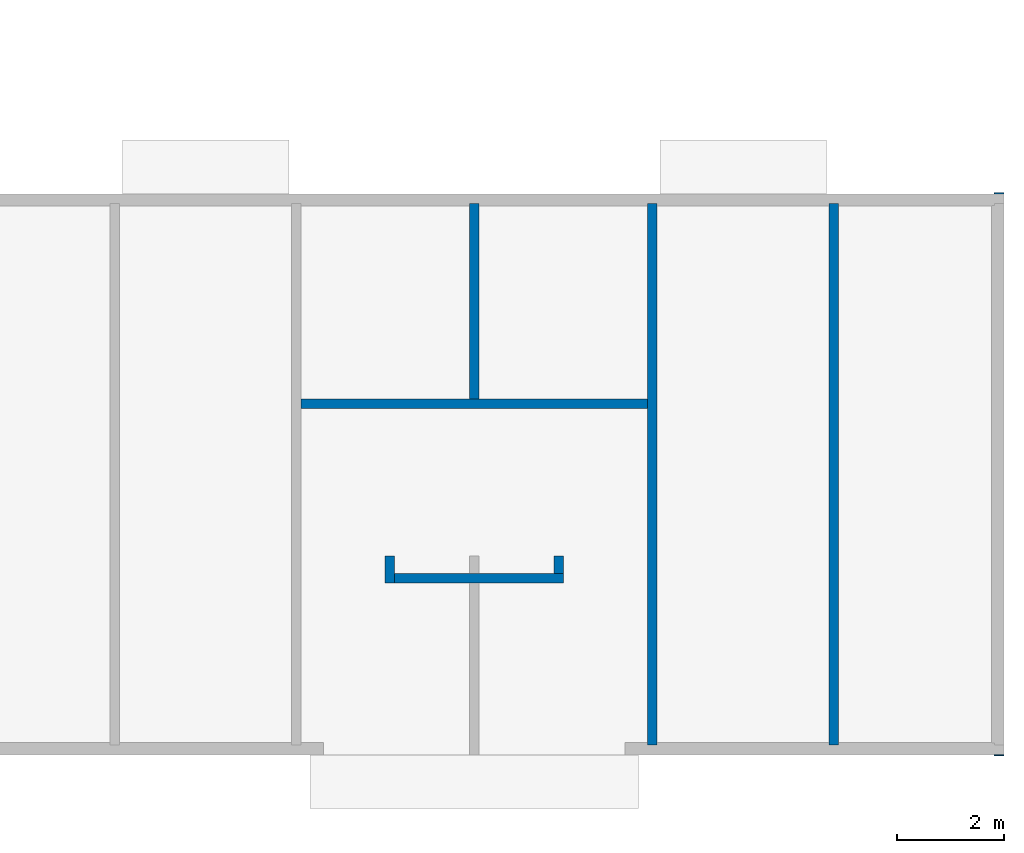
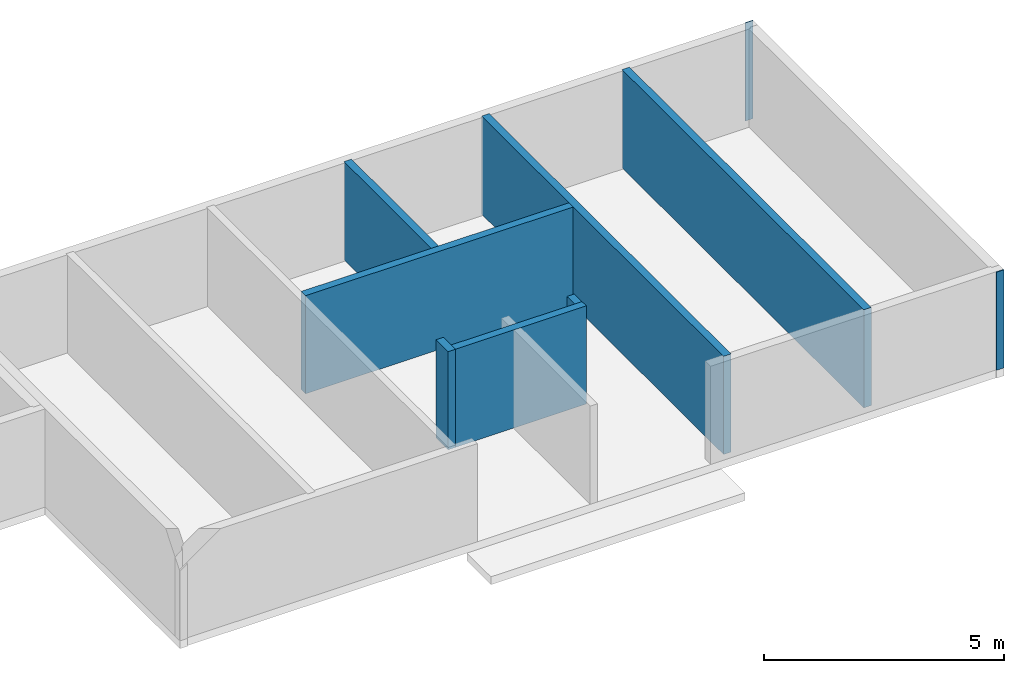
# One storey, part 6 of 10: 9 walls.
"""IFC2X3 building model written with IfcOpenShell, lengths in metres."""

import ifcopenshell
import ifcopenshell.guid

model = None  # the IFC model being written
_history = None  # IfcOwnerHistory: only IFC2X3 demands one
_inside = {}  # id of a spatial element -> (the spatial element, [elements in it])
_under = {}  # id of a project, library or spatial element -> (it, [spatial elements below it])
_declared = {}  # id of a project -> (the project, [libraries it declares])
_typed = {}  # id of a type object -> (the type object, [elements of that type])
_made_of = {}  # id of a material, layer set ... -> (it, [elements and type objects made of it])


def new_model(schema):
    """Start an empty IFC model of exactly this schema.

    Asked for "IFC4X3", IfcOpenShell would pick the latest addendum, in which some entities
    have other attributes; the version numbers below select the first issue.
    IFC2X3 requires an IfcOwnerHistory on every rooted entity: one is made here for all.
    """
    global model, _history
    if schema == "IFC4X3":
        model = ifcopenshell.file(schema_version=(4, 3, 0, 0))
    else:
        model = ifcopenshell.file(schema=schema)
    _inside.clear()
    _under.clear()
    _declared.clear()
    _typed.clear()
    _made_of.clear()
    _history = None
    if model.schema == "IFC2X3":
        org = make("IfcOrganization", Name="unknown")
        user = make(
            "IfcPersonAndOrganization",
            ThePerson=make("IfcPerson", FamilyName="unknown"),
            TheOrganization=org,
        )
        app = make(
            "IfcApplication",
            ApplicationDeveloper=org,
            Version="unknown",
            ApplicationFullName="unknown",
            ApplicationIdentifier="unknown",
        )
        _history = make(
            "IfcOwnerHistory",
            OwningUser=user,
            OwningApplication=app,
            ChangeAction="ADDED",
            CreationDate=0,
        )
    return model


def make(cls, **values):
    """One entity of the class cls with the attributes given. An attribute that is None is left unset."""
    return model.create_entity(
        cls, **{name: value for name, value in values.items() if value is not None}
    )


def rooted(cls, **values):
    """An entity with a GlobalId (a new one), such as an element, a storey or a relation."""
    return make(cls, GlobalId=ifcopenshell.guid.new(), OwnerHistory=_history, **values)


def si_unit(unit_type, name, prefix=None):
    """IfcSIUnit, for example si_unit("LENGTHUNIT", "METRE", prefix="MILLI")."""
    return make("IfcSIUnit", UnitType=unit_type, Prefix=prefix, Name=name)


def assignment(units):
    """IfcUnitAssignment: the units of a project."""
    return None if units is None else make("IfcUnitAssignment", Units=units)


def point(xyz):
    """IfcCartesianPoint."""
    return None if xyz is None else make("IfcCartesianPoint", Coordinates=xyz)


def direction(xyz):
    """IfcDirection."""
    return None if xyz is None else make("IfcDirection", DirectionRatios=xyz)


def frame(location, z_axis=None, x_axis=None):
    """IfcAxis2Placement3D, a coordinate frame: its origin and axes. An axis left out is left unset."""
    return make(
        "IfcAxis2Placement3D",
        Location=point(location),
        Axis=direction(z_axis),
        RefDirection=direction(x_axis),
    )


def frame_2d(location, x_axis=None):
    """IfcAxis2Placement2D, a coordinate frame in the plane: its origin and x axis."""
    return make(
        "IfcAxis2Placement2D", Location=point(location), RefDirection=direction(x_axis)
    )


def origin():
    """The frame at (0, 0, 0) with its axes left unset."""
    return frame((0.0, 0.0, 0.0))


def origin_with_axes():
    """The frame at (0, 0, 0) with the z axis (0, 0, 1) and the x axis (1, 0, 0) written out."""
    return frame((0.0, 0.0, 0.0), z_axis=(0.0, 0.0, 1.0), x_axis=(1.0, 0.0, 0.0))


def place(relative_to, where):
    """IfcLocalPlacement: puts the frame where relative to a parent placement (None: the world)."""
    return make(
        "IfcLocalPlacement", PlacementRelTo=relative_to, RelativePlacement=where
    )


def context(
    kind, dimensions, precision=None, world=None, true_north=None, identifier=None
):
    """IfcGeometricRepresentationContext, for example the 3D "Model" context."""
    return make(
        "IfcGeometricRepresentationContext",
        ContextIdentifier=identifier,
        ContextType=kind,
        CoordinateSpaceDimension=dimensions,
        Precision=precision,
        WorldCoordinateSystem=world,
        TrueNorth=true_north,
    )


def project(units=None, contexts=None):
    """IfcProject with its units and contexts."""
    return rooted(
        "IfcProject",
        Name="project",
        RepresentationContexts=contexts,
        UnitsInContext=assignment(units),
    )


def spatial(cls, under=None, at=None, **own):
    """A site, building, storey or space (cls), placed at a placement, below another one or the project."""
    s = rooted(cls, ObjectPlacement=at, **own)
    if under is not None:
        _under.setdefault(under.id(), (under, []))[1].append(s)
    return s


def profile(cls, at=None, kind="AREA", **sizes):
    """A parametric profile (cls). Its sizes go by their IFC names, for example OverallWidth=200.0."""
    return make(cls, ProfileType=kind, Position=at, **sizes)


def rectangle(**sizes):
    """IfcRectangleProfileDef."""
    return profile("IfcRectangleProfileDef", **sizes)


def extrude(swept, where, along, depth):
    """IfcExtrudedAreaSolid: the profile swept, set in the frame where, extruded along a direction by depth."""
    return make(
        "IfcExtrudedAreaSolid",
        SweptArea=swept,
        Position=where,
        ExtrudedDirection=direction(along),
        Depth=depth,
    )


def shape(context_of_items, identifier, shape_type, items):
    """IfcShapeRepresentation: the items that make up one representation, for example the "Body"."""
    return make(
        "IfcShapeRepresentation",
        ContextOfItems=context_of_items,
        RepresentationIdentifier=identifier,
        RepresentationType=shape_type,
        Items=items,
    )


def made_of(thing, what):
    """Note that an element or type object is made of a material, layer set ...; save() writes the relation."""
    if what is not None:
        _made_of.setdefault(what.id(), (what, []))[1].append(thing)
    return thing


def element(
    cls,
    number,
    at=None,
    inside=None,
    cuts=None,
    type_object=None,
    material=None,
    context=None,
    identifier="Body",
    shape_type=None,
    held_by="IfcProductDefinitionShape",
    body=None,
    shapes=None,
    **own,
):
    """One element of the class cls, such as IfcWall. Its Tag is "e" and its number.

    at: its placement. inside: the storey or other place that contains it. cuts: it is an
    opening in that element (IfcRelVoidsElement). A single representation is given by context,
    identifier, shape_type and body (its items); several are given by shapes. held_by: the class
    of the entity that holds the representations. save() writes the other relations.
    """
    e = rooted(cls, Tag="e%d" % number, ObjectPlacement=at, **own)
    if body is not None:
        shapes = [shape(context, identifier, shape_type, body)]
    if shapes is not None:
        e.Representation = make(held_by, Representations=shapes)
    if inside is not None:
        _inside.setdefault(inside.id(), (inside, []))[1].append(e)
    if cuts is not None:
        rooted(
            "IfcRelVoidsElement", RelatingBuildingElement=cuts, RelatedOpeningElement=e
        )
    if type_object is not None:
        _typed.setdefault(type_object.id(), (type_object, []))[1].append(e)
    return made_of(e, material)


def aggregate(whole, parts):
    """IfcRelAggregates: a whole, such as a stair, and the parts it consists of."""
    return rooted("IfcRelAggregates", RelatingObject=whole, RelatedObjects=parts)


def save(model, path):
    """Write the relations noted so far, then the file.

    IfcRelAggregates (storeys below a building ...), IfcRelContainedInSpatialStructure (elements
    in a storey), IfcRelDefinesByType, IfcRelAssociatesMaterial and IfcRelDeclares: one each for
    every whole, place, type object, material and project.
    """
    for whole, parts in _under.values():
        aggregate(whole, parts)
    for where, things in _inside.values():
        rooted(
            "IfcRelContainedInSpatialStructure",
            RelatedElements=things,
            RelatingStructure=where,
        )
    for kind, things in _typed.values():
        rooted("IfcRelDefinesByType", RelatedObjects=things, RelatingType=kind)
    for what, things in _made_of.values():
        rooted("IfcRelAssociatesMaterial", RelatedObjects=things, RelatingMaterial=what)
    for by, libraries in _declared.values():
        rooted("IfcRelDeclares", RelatingContext=by, RelatedDefinitions=libraries)
    model.write(path)


model = new_model("IFC2X3")

# Units and contexts
model_context = context("Model", 3, precision=1e-06, world=origin())
ifc_project = project(units=[si_unit("LENGTHUNIT", "METRE"), si_unit("PLANEANGLEUNIT", "RADIAN")], contexts=[model_context])

# Site, building, storey
site = spatial("IfcSite", under=ifc_project, CompositionType="ELEMENT")
building = spatial("IfcBuilding", under=site, CompositionType="ELEMENT")
storey = spatial("IfcBuildingStorey", under=building, Name="r+1", CompositionType="ELEMENT", Elevation=2.7)

# Walls
placement = place(None, origin())
wall_1_placement = place(placement, frame((59.54999999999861, 4.870077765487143, 2.7), z_axis=(0.0, 0.0, 1.0), x_axis=(-1.0, 0.0, 0.0)))
element("IfcWall", 1, at=wall_1_placement, inside=storey, context=model_context, shape_type="SweptSolid", body=[
    extrude(rectangle(XDim=0.18, YDim=0.020000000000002, at=frame_2d((0.09, 0.010000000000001), x_axis=(1.0, 0.0)), kind="CURVE"), frame((0.0, -0.020000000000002, 0.0), z_axis=(0.0, 0.0, 1.0), x_axis=(1.0, 0.0, 0.0)), (0.0, 0.0, 1.0), 2.5),
])
wall_2_placement = place(placement, frame((52.90999947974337, 1.050077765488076, 2.7), z_axis=(0.0, 0.0, 1.0), x_axis=(-1.0, 0.0, 0.0)))
element("IfcWall", 2, at=wall_2_placement, inside=storey, context=model_context, shape_type="SweptSolid", body=[
    extrude(rectangle(XDim=6.449999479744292, YDim=0.18, at=frame_2d((3.224999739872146, 0.09), x_axis=(1.0, 0.0)), kind="CURVE"), origin_with_axes(), (0.0, 0.0, 1.0), 2.5),
])
wall_3_placement = place(placement, frame((51.3499994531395, -2.199922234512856, 2.7), z_axis=(0.0, 0.0, 1.0), x_axis=(-1.0, 0.0, 0.0)))
element("IfcWall", 3, at=wall_3_placement, inside=storey, context=model_context, shape_type="SweptSolid", body=[
    extrude(rectangle(XDim=3.150000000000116, YDim=0.18, at=frame_2d((1.575000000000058, 0.09), x_axis=(1.0, 0.0)), kind="CURVE"), origin_with_axes(), (0.0, 0.0, 1.0), 2.5),
])
wall_4_placement = place(placement, frame((48.199999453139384, -2.379922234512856, 2.7), z_axis=(0.0, 0.0, 1.0), x_axis=(0.0, 1.0, 0.0)))
element("IfcWall", 4, at=wall_4_placement, inside=storey, context=model_context, shape_type="SweptSolid", body=[
    extrude(rectangle(XDim=0.5, YDim=0.18, at=frame_2d((0.25, 0.09), x_axis=(1.0, 0.0)), kind="CURVE"), origin_with_axes(), (0.0, 0.0, 1.0), 2.5),
])
wall_5_placement = place(placement, frame((59.549999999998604, -5.599999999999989, 2.7), z_axis=(0.0, 0.0, 1.0), x_axis=(-1.0, 0.0, 0.0)))
element("IfcWall", 5, at=wall_5_placement, inside=storey, context=model_context, shape_type="SweptSolid", body=[
    extrude(rectangle(XDim=0.18, YDim=0.020162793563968, at=frame_2d((0.09, 0.010081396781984), x_axis=(1.0, 0.0)), kind="CURVE"), frame((0.0, -0.020162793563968, 0.0), z_axis=(0.0, 0.0, 1.0), x_axis=(1.0, 0.0, 0.0)), (0.0, 0.0, 1.0), 2.5),
])
wall_6_placement = place(placement, frame((49.77499999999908, 1.050077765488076, 2.7), z_axis=(0.0, 0.0, 1.0), x_axis=(0.0, 1.0, 0.0)))
element("IfcWall", 6, at=wall_6_placement, inside=storey, context=model_context, shape_type="SweptSolid", body=[
    extrude(rectangle(XDim=3.639999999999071, YDim=0.18, at=frame_2d((1.819999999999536, 0.09), x_axis=(1.0, 0.0)), kind="CURVE"), origin_with_axes(), (0.0, 0.0, 1.0), 2.5),
])
wall_7_placement = place(placement, frame((51.169999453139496, -1.879922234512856, 2.7), z_axis=(0.0, 0.0, 1.0), x_axis=(0.0, -1.0, 0.0)))
element("IfcWall", 7, at=wall_7_placement, inside=storey, context=model_context, shape_type="SweptSolid", body=[
    extrude(rectangle(XDim=0.32, YDim=0.18, at=frame_2d((0.16, 0.09), x_axis=(1.0, 0.0)), kind="CURVE"), origin_with_axes(), (0.0, 0.0, 1.0), 2.5),
])
wall_8_placement = place(placement, frame((56.469999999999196, -5.399837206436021, 2.7), z_axis=(0.0, 0.0, 1.0), x_axis=(0.0, 1.0, 0.0)))
element("IfcWall", 8, at=wall_8_placement, inside=storey, context=model_context, shape_type="SweptSolid", body=[
    extrude(rectangle(XDim=10.08991497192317, YDim=0.18, at=frame_2d((5.044957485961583, 0.09), x_axis=(1.0, 0.0)), kind="CURVE"), origin_with_axes(), (0.0, 0.0, 1.0), 2.5),
])
wall_9_placement = place(placement, frame((53.08999993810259, -5.399837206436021, 2.7), z_axis=(0.0, 0.0, 1.0), x_axis=(0.0, 1.0, 0.0)))
element("IfcWall", 9, at=wall_9_placement, inside=storey, context=model_context, shape_type="SweptSolid", body=[
    extrude(rectangle(XDim=10.08991497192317, YDim=0.18, at=frame_2d((5.044957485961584, 0.09), x_axis=(1.0, 0.0)), kind="CURVE"), origin_with_axes(), (0.0, 0.0, 1.0), 2.5),
])

save(model, "model.ifc")
